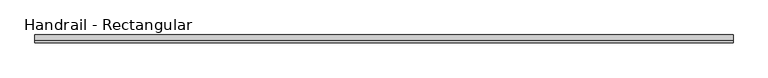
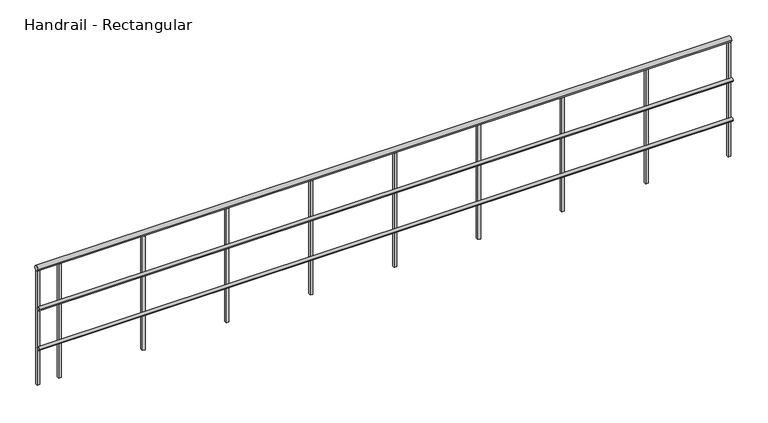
"""IFC4 building model written with IfcOpenShell, lengths in millimetres: railing geometry, Handrail - Rectangular."""

from ifc_helpers import new_model, si_unit, point, frame, frame_2d, origin, place, context, project, spatial, polyline, circle_curve, trimmed, segment, composite_curve, outline, extrude, source, transform, mapped, element, save


def handrail_rectangular_0d4586ac(model_context):
    return source(origin(), model_context, "Body", "SweptSolid", [
        extrude(outline(composite_curve([segment(trimmed(circle_curve(frame_2d((-35578.5683133, 9740.9)), 12.7), [point((-35591.2683133, 9740.9))], [point((-35565.8683133, 9740.9))], False, "CARTESIAN"), True, "CONTINUOUS"), segment(trimmed(circle_curve(frame_2d((-35578.5683133, 9740.9)), 12.7), [point((-35565.8683133, 9740.9))], [point((-35591.2683133, 9740.9))], False, "CARTESIAN"), True, "CONTINUOUS")], self_intersect=False)), frame((-23747.3839563, 0.0, 0.0), z_axis=(1.0, 0.0, 0.0), x_axis=(0.0, 1.0, 0.0)), (0.0, 0.0, 1.0), 5041.9),
        extrude(outline(composite_curve([segment(trimmed(circle_curve(frame_2d((-35578.5683133, 9436.1)), 12.7), [point((-35591.2683133, 9436.1))], [point((-35565.8683133, 9436.1))], False, "CARTESIAN"), True, "CONTINUOUS"), segment(trimmed(circle_curve(frame_2d((-35578.5683133, 9436.1)), 12.7), [point((-35565.8683133, 9436.1))], [point((-35591.2683133, 9436.1))], False, "CARTESIAN"), True, "CONTINUOUS")], self_intersect=False)), frame((-23747.3839563, 0.0, 0.0), z_axis=(1.0, 0.0, 0.0), x_axis=(0.0, 1.0, 0.0)), (0.0, 0.0, 1.0), 5041.9),
        extrude(outline(composite_curve([segment(trimmed(circle_curve(frame_2d((-35553.1683133, 10039.35)), 19.05), [point((-35572.2183133, 10039.35))], [point((-35534.1183133, 10039.35))], False, "CARTESIAN"), True, "CONTINUOUS"), segment(trimmed(circle_curve(frame_2d((-35553.1683133, 10039.35)), 19.05), [point((-35534.1183133, 10039.35))], [point((-35572.2183133, 10039.35))], False, "CARTESIAN"), True, "CONTINUOUS")], self_intersect=False)), frame((-23747.3839563, 0.0, 0.0), z_axis=(1.0, 0.0, 0.0), x_axis=(0.0, 1.0, 0.0)), (0.0, 0.0, 1.0), 5041.9),
        extrude(outline(polyline([(-23572.7589563, -35543.6433133), (-23572.7589563, -35562.6933133), (-23591.8089563, -35562.6933133), (-23591.8089563, -35543.6433133), (-23572.7589563, -35543.6433133)])), frame((0.0, 0.0, 9144.0), z_axis=(0.0, 0.0, 1.0), x_axis=(1.0, 0.0, 0.0)), (0.0, 0.0, 1.0), 876.3),
        extrude(outline(polyline([(-22963.1589563, -35543.6433133), (-22963.1589563, -35562.6933133), (-22982.2089563, -35562.6933133), (-22982.2089563, -35543.6433133), (-22963.1589563, -35543.6433133)])), frame((0.0, 0.0, 9144.0), z_axis=(0.0, 0.0, 1.0), x_axis=(1.0, 0.0, 0.0)), (0.0, 0.0, 1.0), 876.3),
        extrude(outline(polyline([(-22353.5589563, -35543.6433133), (-22353.5589563, -35562.6933133), (-22372.6089563, -35562.6933133), (-22372.6089563, -35543.6433133), (-22353.5589563, -35543.6433133)])), frame((0.0, 0.0, 9144.0), z_axis=(0.0, 0.0, 1.0), x_axis=(1.0, 0.0, 0.0)), (0.0, 0.0, 1.0), 876.3),
        extrude(outline(polyline([(-21743.9589563, -35543.6433133), (-21743.9589563, -35562.6933133), (-21763.0089563, -35562.6933133), (-21763.0089563, -35543.6433133), (-21743.9589563, -35543.6433133)])), frame((0.0, 0.0, 9144.0), z_axis=(0.0, 0.0, 1.0), x_axis=(1.0, 0.0, 0.0)), (0.0, 0.0, 1.0), 876.3),
        extrude(outline(polyline([(-21134.3589563, -35543.6433133), (-21134.3589563, -35562.6933133), (-21153.4089563, -35562.6933133), (-21153.4089563, -35543.6433133), (-21134.3589563, -35543.6433133)])), frame((0.0, 0.0, 9144.0), z_axis=(0.0, 0.0, 1.0), x_axis=(1.0, 0.0, 0.0)), (0.0, 0.0, 1.0), 876.3),
        extrude(outline(polyline([(-20524.7589563, -35543.6433133), (-20524.7589563, -35562.6933133), (-20543.8089563, -35562.6933133), (-20543.8089563, -35543.6433133), (-20524.7589563, -35543.6433133)])), frame((0.0, 0.0, 9144.0), z_axis=(0.0, 0.0, 1.0), x_axis=(1.0, 0.0, 0.0)), (0.0, 0.0, 1.0), 876.3),
        extrude(outline(polyline([(-19915.1589563, -35543.6433133), (-19915.1589563, -35562.6933133), (-19934.2089563, -35562.6933133), (-19934.2089563, -35543.6433133), (-19915.1589563, -35543.6433133)])), frame((0.0, 0.0, 9144.0), z_axis=(0.0, 0.0, 1.0), x_axis=(1.0, 0.0, 0.0)), (0.0, 0.0, 1.0), 876.3),
        extrude(outline(polyline([(-19305.5589563, -35543.6433133), (-19305.5589563, -35562.6933133), (-19324.6089563, -35562.6933133), (-19324.6089563, -35543.6433133), (-19305.5589563, -35543.6433133)])), frame((0.0, 0.0, 9144.0), z_axis=(0.0, 0.0, 1.0), x_axis=(1.0, 0.0, 0.0)), (0.0, 0.0, 1.0), 876.3),
        extrude(outline(polyline([(-23728.3339563, -35543.6433133), (-23728.3339563, -35562.6933133), (-23747.3839563, -35562.6933133), (-23747.3839563, -35543.6433133), (-23728.3339563, -35543.6433133)])), frame((0.0, 0.0, 9144.0), z_axis=(0.0, 0.0, 1.0), x_axis=(1.0, 0.0, 0.0)), (0.0, 0.0, 1.0), 876.3),
        extrude(outline(polyline([(-18705.4839563, -35543.6433133), (-18705.4839563, -35562.6933133), (-18724.5339563, -35562.6933133), (-18724.5339563, -35543.6433133), (-18705.4839563, -35543.6433133)])), frame((0.0, 0.0, 9144.0), z_axis=(0.0, 0.0, 1.0), x_axis=(1.0, 0.0, 0.0)), (0.0, 0.0, 1.0), 876.3),
    ])


if __name__ == "__main__":
    model = new_model("IFC4")
    model_context = context("Model", 3, world=origin())
    ifc_project = project(units=[si_unit("LENGTHUNIT", "METRE", prefix="MILLI")], contexts=[model_context])
    site = spatial("IfcSite", under=ifc_project)
    building = spatial("IfcBuilding", under=site)
    placement = place(None, origin())
    handrail_rectangular_shape = handrail_rectangular_0d4586ac(model_context)
    element("IfcRailing", 1, ObjectType="Handrail - Rectangular", at=placement, inside=building, context=model_context, shape_type="MappedRepresentation", body=[
        mapped(handrail_rectangular_shape, transform((0.0, 0.0, 0.0), x_axis=(1.0, 0.0, 0.0), y_axis=(0.0, 1.0, 0.0), z_axis=(0.0, 0.0, 1.0))),
    ])
    save(model, "model.ifc")
